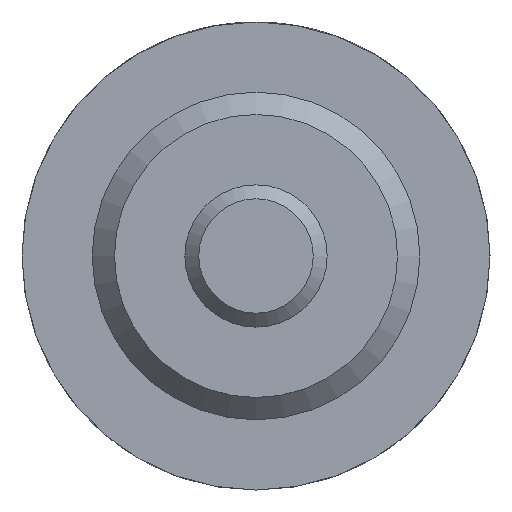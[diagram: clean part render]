
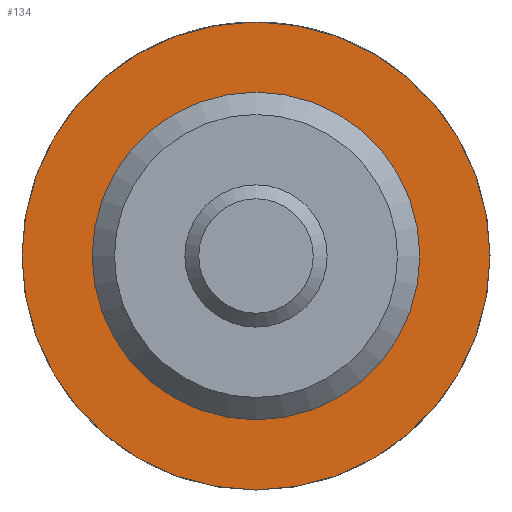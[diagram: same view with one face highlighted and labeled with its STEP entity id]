
A CAD part, left-side view. The second image highlights one B-rep face of the part: STEP entity #134.
In plain terms, the highlighted planar face has unit normal (-1, 0, 0).
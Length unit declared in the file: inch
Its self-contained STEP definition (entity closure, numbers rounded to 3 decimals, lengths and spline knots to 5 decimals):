
#134 = ADVANCED_FACE( '', ( #277, #278 ), #279, .F. );
#277 = FACE_OUTER_BOUND( '', #453, .T. );
#278 = FACE_BOUND( '', #454, .T. );
#279 = PLANE( '', #455 );
#453 = EDGE_LOOP( '', ( #656 ) );
#454 = EDGE_LOOP( '', ( #657 ) );
#455 = AXIS2_PLACEMENT_3D( '', #658, #659, #660 );
#656 = ORIENTED_EDGE( '', *, *, #886, .F. );
#657 = ORIENTED_EDGE( '', *, *, #887, .T. );
#658 = CARTESIAN_POINT( '', ( 0.375, 0.2185, 0. ) );
#659 = DIRECTION( '', ( 1., 0., 0. ) );
#660 = DIRECTION( '', ( 0., 0., -1. ) );
#886 = EDGE_CURVE( '', #1009, #1009, #1010, .T. );
#887 = EDGE_CURVE( '', #1011, #1011, #1012, .T. );
#1009 = VERTEX_POINT( '', #1226 );
#1010 = CIRCLE( '', #1227, 0.3125 );
#1011 = VERTEX_POINT( '', #1228 );
#1012 = CIRCLE( '', #1229, 0.2185 );
#1226 = CARTESIAN_POINT( '', ( 0.375, 0., -0.3125 ) );
#1227 = AXIS2_PLACEMENT_3D( '', #1442, #1443, #1444 );
#1228 = CARTESIAN_POINT( '', ( 0.375, 0., -0.2185 ) );
#1229 = AXIS2_PLACEMENT_3D( '', #1445, #1446, #1447 );
#1442 = CARTESIAN_POINT( '', ( 0.375, 0., 0. ) );
#1443 = DIRECTION( '', ( 1., 0., 0. ) );
#1444 = DIRECTION( '', ( 0., 0., -1. ) );
#1445 = CARTESIAN_POINT( '', ( 0.375, 0., 0. ) );
#1446 = DIRECTION( '', ( 1., 0., 0. ) );
#1447 = DIRECTION( '', ( 0., 0., -1. ) );
